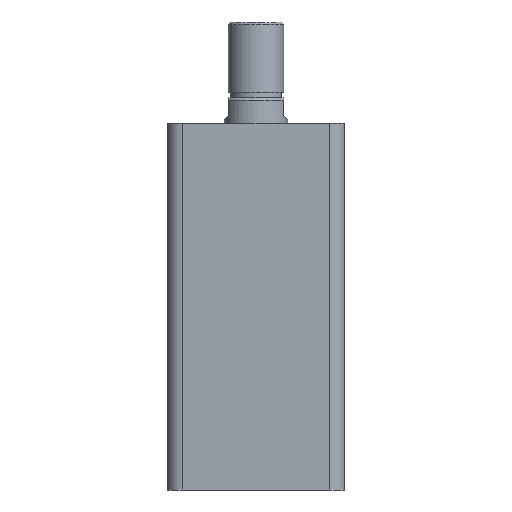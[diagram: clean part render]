
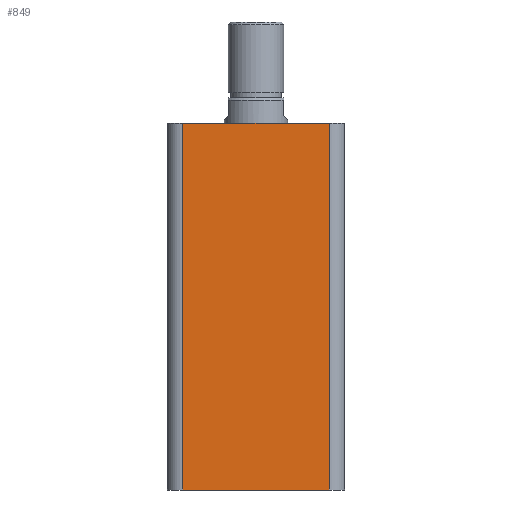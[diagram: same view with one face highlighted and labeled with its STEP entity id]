
A CAD part, front view. The second image highlights one B-rep face of the part: STEP entity #849.
In plain terms, the highlighted planar face has unit normal (0, -1, 0).
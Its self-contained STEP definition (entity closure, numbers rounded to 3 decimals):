
#62 = ORIENTED_EDGE ( 'NONE', *, *, #938, .T. ) ;
#341 = ORIENTED_EDGE ( 'NONE', *, *, #941, .T. ) ;
#346 = ORIENTED_EDGE ( 'NONE', *, *, #932, .T. ) ;
#507 = DIRECTION ( 'NONE',  ( 1., 0., 0. ) ) ;
#512 = CARTESIAN_POINT ( 'NONE',  ( -35., -35., 145. ) ) ;
#535 = CARTESIAN_POINT ( 'NONE',  ( -35., -35., 0. ) ) ;
#547 = DIRECTION ( 'NONE',  ( 1., 0., 0. ) ) ;
#561 = CARTESIAN_POINT ( 'NONE',  ( 29., -35., 145. ) ) ;
#578 = DIRECTION ( 'NONE',  ( 0., 0., 1. ) ) ;
#613 = CARTESIAN_POINT ( 'NONE',  ( -29., -35., 145. ) ) ;
#637 = DIRECTION ( 'NONE',  ( 0., 0., -1. ) ) ;
#748 = DIRECTION ( 'NONE',  ( 0., 0., 1. ) ) ;
#754 = DIRECTION ( 'NONE',  ( 0., 1., 0. ) ) ;
#760 = PLANE ( 'NONE',  #1076 ) ;
#808 = CARTESIAN_POINT ( 'NONE',  ( -35., -35., 145. ) ) ;
#849 = ADVANCED_FACE ( 'NONE', ( #1265 ), #760, .F. ) ;
#932 = EDGE_CURVE ( 'NONE', #1582, #1561, #1192, .T. ) ;
#938 = EDGE_CURVE ( 'NONE', #1567, #1606, #1167, .T. ) ;
#941 = EDGE_CURVE ( 'NONE', #1561, #1567, #1159, .T. ) ;
#942 = EDGE_CURVE ( 'NONE', #1582, #1606, #1154, .T. ) ;
#1076 = AXIS2_PLACEMENT_3D ( 'NONE', #808, #754, #748 ) ;
#1148 = VECTOR ( 'NONE', #507, 1000. ) ;
#1152 = VECTOR ( 'NONE', #547, 1000. ) ;
#1154 = LINE ( 'NONE', #512, #1148 ) ;
#1159 = LINE ( 'NONE', #535, #1152 ) ;
#1161 = VECTOR ( 'NONE', #578, 1000. ) ;
#1167 = LINE ( 'NONE', #561, #1161 ) ;
#1174 = VECTOR ( 'NONE', #637, 1000. ) ;
#1192 = LINE ( 'NONE', #613, #1174 ) ;
#1265 = FACE_OUTER_BOUND ( 'NONE', #1302, .T. ) ;
#1302 = EDGE_LOOP ( 'NONE', ( #1650, #346, #341, #62 ) ) ;
#1561 = VERTEX_POINT ( 'NONE', #2701 ) ;
#1567 = VERTEX_POINT ( 'NONE', #2688 ) ;
#1582 = VERTEX_POINT ( 'NONE', #2648 ) ;
#1606 = VERTEX_POINT ( 'NONE', #2611 ) ;
#1650 = ORIENTED_EDGE ( 'NONE', *, *, #942, .F. ) ;
#2611 = CARTESIAN_POINT ( 'NONE',  ( 29., -35., 145. ) ) ;
#2648 = CARTESIAN_POINT ( 'NONE',  ( -29., -35., 145. ) ) ;
#2688 = CARTESIAN_POINT ( 'NONE',  ( 29., -35., 0. ) ) ;
#2701 = CARTESIAN_POINT ( 'NONE',  ( -29., -35., 0. ) ) ;
